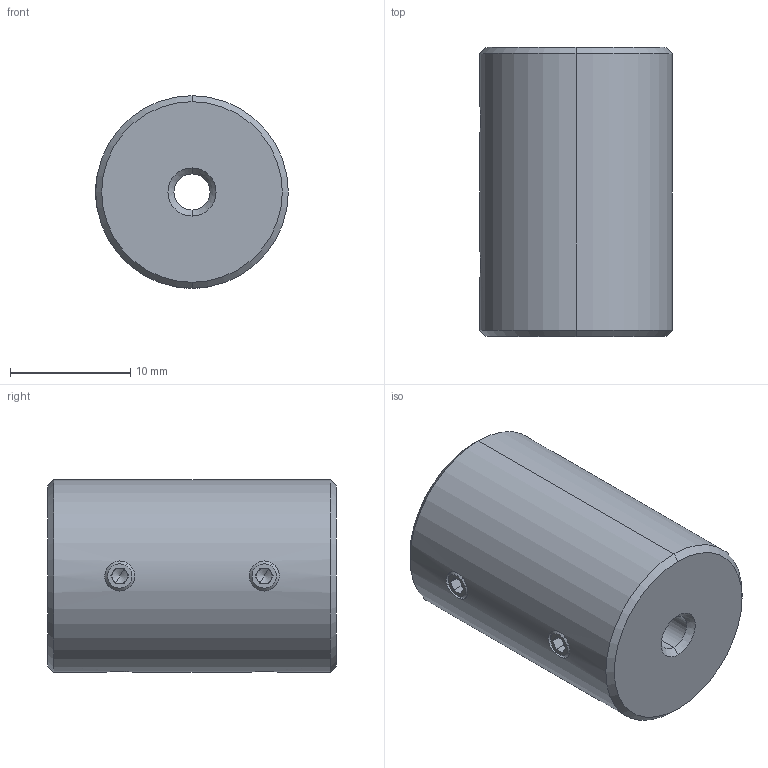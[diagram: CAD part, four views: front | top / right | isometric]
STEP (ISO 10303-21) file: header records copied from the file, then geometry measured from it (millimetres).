
FILE_DESCRIPTION (( 'STEP AP214' ), '1' );
FILE_NAME ('LL-D-D16L24-3-5.STEP', '2022-07-23T06:56:49', ( '' ), ( '' ), 'SwSTEP 2.0', 'SolidWorks 2022', '' );
FILE_SCHEMA (( 'AUTOMOTIVE_DESIGN' ));
Length unit declared in the file: millimetre
Products named in the file (1): LL-D-D16L24-3-5
Bounding box: 16 x 24 x 16 mm (x, y, z)
Volume: 4436.4 mm3; surface area: 1979.9 mm2
Topology: 1 solids, 1 shells, 113 faces, 288 edges, 177 vertices
Faces by surface type: plane 59, cone 32, cylinder 22
Entity records: 3666 total; most frequent: CARTESIAN_POINT 911, DIRECTION 582, ORIENTED_EDGE 560, EDGE_CURVE 280, AXIS2_PLACEMENT_3D 214, VERTEX_POINT 177, LINE 154, VECTOR 154
